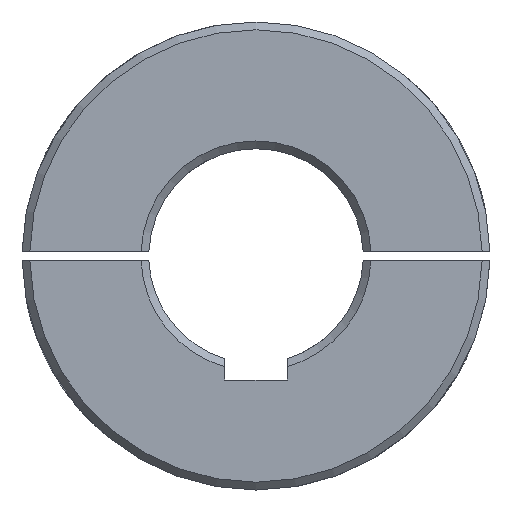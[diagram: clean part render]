
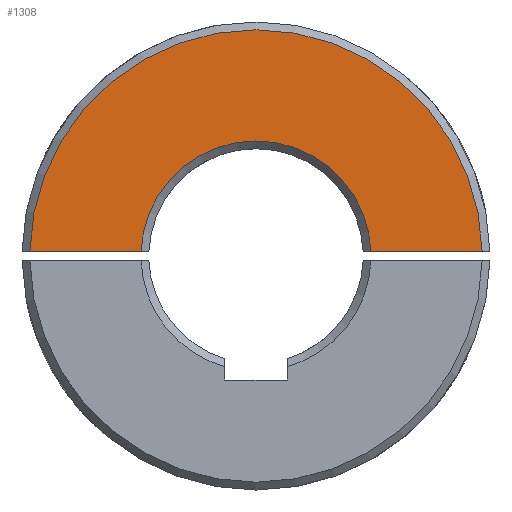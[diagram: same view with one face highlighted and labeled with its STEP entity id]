
A CAD part, front view. The second image highlights one B-rep face of the part: STEP entity #1308.
In plain terms, the highlighted planar face has unit normal (0, -1, 0).
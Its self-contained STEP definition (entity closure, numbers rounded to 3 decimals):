
#39 = VECTOR ( 'NONE', #219, 1000. ) ;
#51 = VERTEX_POINT ( 'NONE', #2810 ) ;
#219 = DIRECTION ( 'NONE',  ( -1., 0., 0. ) ) ;
#258 = AXIS2_PLACEMENT_3D ( 'NONE', #2919, #1415, #2062 ) ;
#308 = CIRCLE ( 'NONE', #1875, 29.5 ) ;
#322 = DIRECTION ( 'NONE',  ( 0., 1., 0. ) ) ;
#534 = LINE ( 'NONE', #1752, #2255 ) ;
#563 = CARTESIAN_POINT ( 'NONE',  ( 0., 0., 0. ) ) ;
#638 = CARTESIAN_POINT ( 'NONE',  ( 0., 0., 0. ) ) ;
#658 = FACE_OUTER_BOUND ( 'NONE', #2379, .T. ) ;
#706 = ORIENTED_EDGE ( 'NONE', *, *, #1974, .F. ) ;
#752 = LINE ( 'NONE', #3259, #39 ) ;
#1012 = DIRECTION ( 'NONE',  ( -1., 0., 0. ) ) ;
#1030 = ORIENTED_EDGE ( 'NONE', *, *, #3001, .T. ) ;
#1064 = ORIENTED_EDGE ( 'NONE', *, *, #2659, .F. ) ;
#1247 = EDGE_CURVE ( 'NONE', #51, #1967, #308, .T. ) ;
#1308 = ADVANCED_FACE ( 'NONE', ( #658 ), #1910, .F. ) ;
#1415 = DIRECTION ( 'NONE',  ( 0., 1., 0. ) ) ;
#1510 = CIRCLE ( 'NONE', #2572, 58. ) ;
#1593 = DIRECTION ( 'NONE',  ( 0., -1., 0. ) ) ;
#1752 = CARTESIAN_POINT ( 'NONE',  ( 65., 0., 1.2 ) ) ;
#1869 = DIRECTION ( 'NONE',  ( 0., 0., 1. ) ) ;
#1875 = AXIS2_PLACEMENT_3D ( 'NONE', #563, #322, #2327 ) ;
#1910 = PLANE ( 'NONE',  #258 ) ;
#1945 = VERTEX_POINT ( 'NONE', #2745 ) ;
#1967 = VERTEX_POINT ( 'NONE', #2476 ) ;
#1974 = EDGE_CURVE ( 'NONE', #51, #1945, #752, .T. ) ;
#2062 = DIRECTION ( 'NONE',  ( 0., 0., 1. ) ) ;
#2255 = VECTOR ( 'NONE', #1012, 1000. ) ;
#2327 = DIRECTION ( 'NONE',  ( 0., 0., 1. ) ) ;
#2374 = VERTEX_POINT ( 'NONE', #2729 ) ;
#2379 = EDGE_LOOP ( 'NONE', ( #1030, #706, #2998, #1064 ) ) ;
#2476 = CARTESIAN_POINT ( 'NONE',  ( 29.476, 0., 1.2 ) ) ;
#2572 = AXIS2_PLACEMENT_3D ( 'NONE', #638, #1593, #1869 ) ;
#2659 = EDGE_CURVE ( 'NONE', #2374, #1967, #534, .T. ) ;
#2729 = CARTESIAN_POINT ( 'NONE',  ( 57.988, 0., 1.2 ) ) ;
#2745 = CARTESIAN_POINT ( 'NONE',  ( -57.988, 0., 1.2 ) ) ;
#2810 = CARTESIAN_POINT ( 'NONE',  ( -29.476, 0., 1.2 ) ) ;
#2919 = CARTESIAN_POINT ( 'NONE',  ( 0., 0., 0. ) ) ;
#2998 = ORIENTED_EDGE ( 'NONE', *, *, #1247, .T. ) ;
#3001 = EDGE_CURVE ( 'NONE', #2374, #1945, #1510, .T. ) ;
#3259 = CARTESIAN_POINT ( 'NONE',  ( 65., 0., 1.2 ) ) ;
